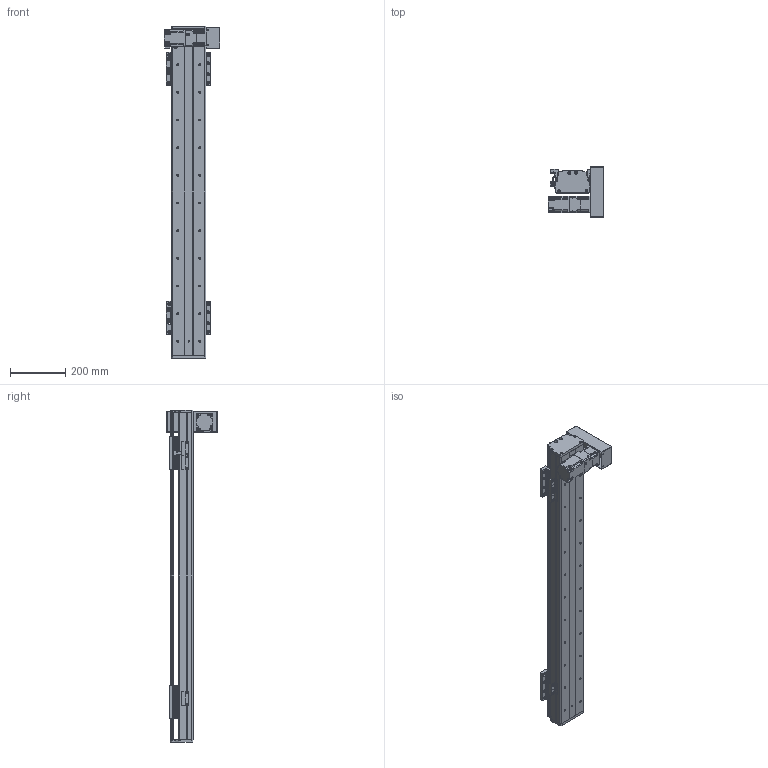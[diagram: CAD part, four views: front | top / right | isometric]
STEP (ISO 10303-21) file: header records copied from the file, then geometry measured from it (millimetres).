
FILE_DESCRIPTION(/* description */ (''),/* implementation_level */ '2;1');
FILE_NAME(/* name */ 'C:\Users\PC\Desktop\3D도면\STEP\새 폴더\DSB125-DR2G-W0900-L.stp',/* time_stamp */ '2018-06-21T14:58:09+09:00',/* author */ ('PC'),/* organization */ (''),/* preprocessor_version */ 'ST-DEVELOPER v16.5',/* originating_system */ 'Autodesk Inventor 2017',/* authorisation */ '');
FILE_SCHEMA (('AUTOMOTIVE_DESIGN { 1 0 10303 214 3 1 1 }'));
Length unit declared in the file: millimetre
Products named in the file (12): DSB125-DL2G-W0900-R_MIR; DSB125-BASE_MIR; DSB125-FRONT COVER_MIR; DSB125-REAR COVER_MIR; DSB125-UP COVER_MIR; hg-kr23__MIR; ab0601-p0401200402_MIR; 13-BELT COVER_MIR; DSR125-SENSOR DOG_MIR; pm-y65_step_MIR; SENSOR BRACKET(EE-SX674A)_MIR; DSB125-TABLE(MSB15S)_MIR
Assembly tree (16 placements, depth 2):
  DSB125-DL2G-W0900-R_MIR
    DSB125-BASE_MIR
    DSB125-FRONT COVER_MIR
    DSB125-REAR COVER_MIR
    DSB125-UP COVER_MIR
    hg-kr23__MIR
    ab0601-p0401200402_MIR
    13-BELT COVER_MIR
    DSR125-SENSOR DOG_MIR
    pm-y65_step_MIR  x3
    SENSOR BRACKET(EE-SX674A)_MIR  x3
    DSB125-TABLE(MSB15S)_MIR  x2
Bounding box: 202.1 x 182 x 1200 mm (x, y, z)
Volume: 4538754.6 mm3; surface area: 1307990.4 mm2
Topology: 17 solids, 17 shells, 1659 faces, 4500 edges, 2966 vertices
Faces by surface type: plane 903, cylinder 630, cone 114, sphere 8, torus 4
Full cylindrical faces by diameter (mm): 2.459 x20, 3.242 x16, 3.5 x6, 4 x1, 4.134 x16, 4.2 x4, 4.3 x1, 4.5 x50, 4.917 x20, 5 x22, 5.3 x1, 5.5 x4, 5.6 x8, 5.8 x4, 5.9 x8, 6 x4, 6.6 x22, 6.647 x24, 7.5 x32, 8.5 x8, 8.7 x1, 11 x22, 14 x1, 16 x2, 17 x1, 20 x1, 47 x1, 50 x3
Entity records: 35969 total; most frequent: CARTESIAN_POINT 6483, DIRECTION 6106, ORIENTED_EDGE 5474, EDGE_CURVE 2737, AXIS2_PLACEMENT_3D 2241, VERTEX_POINT 1946, EDGE_LOOP 1669, LINE 1624
